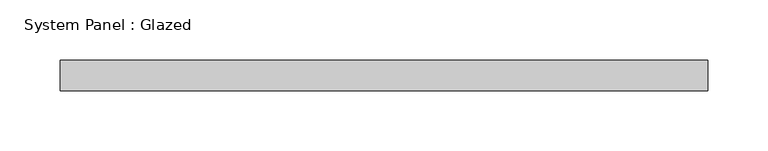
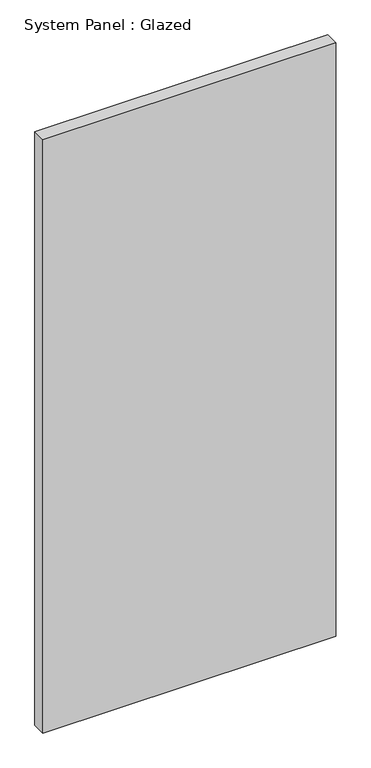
"""IFC4 building model written with IfcOpenShell, lengths in millimetres: plate geometry, System Panel : Glazed."""

import ifcopenshell
import ifcopenshell.guid

model = None  # the IFC model being written
_history = None  # IfcOwnerHistory: only IFC2X3 demands one
_inside = {}  # id of a spatial element -> (the spatial element, [elements in it])
_under = {}  # id of a project, library or spatial element -> (it, [spatial elements below it])
_declared = {}  # id of a project -> (the project, [libraries it declares])
_typed = {}  # id of a type object -> (the type object, [elements of that type])
_made_of = {}  # id of a material, layer set ... -> (it, [elements and type objects made of it])


def new_model(schema):
    """Start an empty IFC model of exactly this schema.

    Asked for "IFC4X3", IfcOpenShell would pick the latest addendum, in which some entities
    have other attributes; the version numbers below select the first issue.
    IFC2X3 requires an IfcOwnerHistory on every rooted entity: one is made here for all.
    """
    global model, _history
    if schema == "IFC4X3":
        model = ifcopenshell.file(schema_version=(4, 3, 0, 0))
    else:
        model = ifcopenshell.file(schema=schema)
    _inside.clear()
    _under.clear()
    _declared.clear()
    _typed.clear()
    _made_of.clear()
    _history = None
    if model.schema == "IFC2X3":
        org = make("IfcOrganization", Name="unknown")
        user = make(
            "IfcPersonAndOrganization",
            ThePerson=make("IfcPerson", FamilyName="unknown"),
            TheOrganization=org,
        )
        app = make(
            "IfcApplication",
            ApplicationDeveloper=org,
            Version="unknown",
            ApplicationFullName="unknown",
            ApplicationIdentifier="unknown",
        )
        _history = make(
            "IfcOwnerHistory",
            OwningUser=user,
            OwningApplication=app,
            ChangeAction="ADDED",
            CreationDate=0,
        )
    return model


def make(cls, **values):
    """One entity of the class cls with the attributes given. An attribute that is None is left unset."""
    return model.create_entity(
        cls, **{name: value for name, value in values.items() if value is not None}
    )


def rooted(cls, **values):
    """An entity with a GlobalId (a new one), such as an element, a storey or a relation."""
    return make(cls, GlobalId=ifcopenshell.guid.new(), OwnerHistory=_history, **values)


def si_unit(unit_type, name, prefix=None):
    """IfcSIUnit, for example si_unit("LENGTHUNIT", "METRE", prefix="MILLI")."""
    return make("IfcSIUnit", UnitType=unit_type, Prefix=prefix, Name=name)


def assignment(units):
    """IfcUnitAssignment: the units of a project."""
    return None if units is None else make("IfcUnitAssignment", Units=units)


def point(xyz):
    """IfcCartesianPoint."""
    return None if xyz is None else make("IfcCartesianPoint", Coordinates=xyz)


def direction(xyz):
    """IfcDirection."""
    return None if xyz is None else make("IfcDirection", DirectionRatios=xyz)


def frame(location, z_axis=None, x_axis=None):
    """IfcAxis2Placement3D, a coordinate frame: its origin and axes. An axis left out is left unset."""
    return make(
        "IfcAxis2Placement3D",
        Location=point(location),
        Axis=direction(z_axis),
        RefDirection=direction(x_axis),
    )


def origin():
    """The frame at (0, 0, 0) with its axes left unset."""
    return frame((0.0, 0.0, 0.0))


def origin_with_axes():
    """The frame at (0, 0, 0) with the z axis (0, 0, 1) and the x axis (1, 0, 0) written out."""
    return frame((0.0, 0.0, 0.0), z_axis=(0.0, 0.0, 1.0), x_axis=(1.0, 0.0, 0.0))


def place(relative_to, where):
    """IfcLocalPlacement: puts the frame where relative to a parent placement (None: the world)."""
    return make(
        "IfcLocalPlacement", PlacementRelTo=relative_to, RelativePlacement=where
    )


def context(
    kind, dimensions, precision=None, world=None, true_north=None, identifier=None
):
    """IfcGeometricRepresentationContext, for example the 3D "Model" context."""
    return make(
        "IfcGeometricRepresentationContext",
        ContextIdentifier=identifier,
        ContextType=kind,
        CoordinateSpaceDimension=dimensions,
        Precision=precision,
        WorldCoordinateSystem=world,
        TrueNorth=true_north,
    )


def project(units=None, contexts=None):
    """IfcProject with its units and contexts."""
    return rooted(
        "IfcProject",
        Name="project",
        RepresentationContexts=contexts,
        UnitsInContext=assignment(units),
    )


def spatial(cls, under=None, at=None, **own):
    """A site, building, storey or space (cls), placed at a placement, below another one or the project."""
    s = rooted(cls, ObjectPlacement=at, **own)
    if under is not None:
        _under.setdefault(under.id(), (under, []))[1].append(s)
    return s


def polyline(points):
    """IfcPolyline through the points."""
    return make("IfcPolyline", Points=[point(p) for p in points])


def outline(outer, holes=None, kind="AREA"):
    """IfcArbitraryClosedProfileDef: a profile drawn as a closed curve; with holes, ...WithVoids."""
    if holes is None:
        return make("IfcArbitraryClosedProfileDef", ProfileType=kind, OuterCurve=outer)
    return make(
        "IfcArbitraryProfileDefWithVoids",
        ProfileType=kind,
        OuterCurve=outer,
        InnerCurves=holes,
    )


def extrude(swept, where, along, depth):
    """IfcExtrudedAreaSolid: the profile swept, set in the frame where, extruded along a direction by depth."""
    return make(
        "IfcExtrudedAreaSolid",
        SweptArea=swept,
        Position=where,
        ExtrudedDirection=direction(along),
        Depth=depth,
    )


def shape(context_of_items, identifier, shape_type, items):
    """IfcShapeRepresentation: the items that make up one representation, for example the "Body"."""
    return make(
        "IfcShapeRepresentation",
        ContextOfItems=context_of_items,
        RepresentationIdentifier=identifier,
        RepresentationType=shape_type,
        Items=items,
    )


def source(mapping_origin, context_of_items, identifier, shape_type, items):
    """IfcRepresentationMap: a shape defined once, which mapped items show again and again."""
    return make(
        "IfcRepresentationMap",
        MappingOrigin=mapping_origin,
        MappedRepresentation=shape(context_of_items, identifier, shape_type, items),
    )


def transform(
    local_origin,
    x_axis=None,
    y_axis=None,
    z_axis=None,
    scale=None,
    scale2=None,
    scale3=None,
    uniform=True,
):
    """IfcCartesianTransformationOperator3D, or its non-uniform kind. x_axis, y_axis, z_axis: its Axis1, 2, 3."""
    if uniform:
        return make(
            "IfcCartesianTransformationOperator3D",
            Axis1=direction(x_axis),
            Axis2=direction(y_axis),
            LocalOrigin=point(local_origin),
            Scale=scale,
            Axis3=direction(z_axis),
        )
    return make(
        "IfcCartesianTransformationOperator3DnonUniform",
        Axis1=direction(x_axis),
        Axis2=direction(y_axis),
        LocalOrigin=point(local_origin),
        Scale=scale,
        Axis3=direction(z_axis),
        Scale2=scale2,
        Scale3=scale3,
    )


def mapped(mapping_source, mapping_target):
    """IfcMappedItem: shows the shape of a source again, moved by a transform."""
    return make(
        "IfcMappedItem", MappingSource=mapping_source, MappingTarget=mapping_target
    )


def made_of(thing, what):
    """Note that an element or type object is made of a material, layer set ...; save() writes the relation."""
    if what is not None:
        _made_of.setdefault(what.id(), (what, []))[1].append(thing)
    return thing


def element(
    cls,
    number,
    at=None,
    inside=None,
    cuts=None,
    type_object=None,
    material=None,
    context=None,
    identifier="Body",
    shape_type=None,
    held_by="IfcProductDefinitionShape",
    body=None,
    shapes=None,
    **own,
):
    """One element of the class cls, such as IfcWall. Its Tag is "e" and its number.

    at: its placement. inside: the storey or other place that contains it. cuts: it is an
    opening in that element (IfcRelVoidsElement). A single representation is given by context,
    identifier, shape_type and body (its items); several are given by shapes. held_by: the class
    of the entity that holds the representations. save() writes the other relations.
    """
    e = rooted(cls, Tag="e%d" % number, ObjectPlacement=at, **own)
    if body is not None:
        shapes = [shape(context, identifier, shape_type, body)]
    if shapes is not None:
        e.Representation = make(held_by, Representations=shapes)
    if inside is not None:
        _inside.setdefault(inside.id(), (inside, []))[1].append(e)
    if cuts is not None:
        rooted(
            "IfcRelVoidsElement", RelatingBuildingElement=cuts, RelatedOpeningElement=e
        )
    if type_object is not None:
        _typed.setdefault(type_object.id(), (type_object, []))[1].append(e)
    return made_of(e, material)


def aggregate(whole, parts):
    """IfcRelAggregates: a whole, such as a stair, and the parts it consists of."""
    return rooted("IfcRelAggregates", RelatingObject=whole, RelatedObjects=parts)


def save(model, path):
    """Write the relations noted so far, then the file.

    IfcRelAggregates (storeys below a building ...), IfcRelContainedInSpatialStructure (elements
    in a storey), IfcRelDefinesByType, IfcRelAssociatesMaterial and IfcRelDeclares: one each for
    every whole, place, type object, material and project.
    """
    for whole, parts in _under.values():
        aggregate(whole, parts)
    for where, things in _inside.values():
        rooted(
            "IfcRelContainedInSpatialStructure",
            RelatedElements=things,
            RelatingStructure=where,
        )
    for kind, things in _typed.values():
        rooted("IfcRelDefinesByType", RelatedObjects=things, RelatingType=kind)
    for what, things in _made_of.values():
        rooted("IfcRelAssociatesMaterial", RelatedObjects=things, RelatingMaterial=what)
    for by, libraries in _declared.values():
        rooted("IfcRelDeclares", RelatingContext=by, RelatedDefinitions=libraries)
    model.write(path)


def system_panel_glazed_85a31dd6(model_context):
    return source(origin(), model_context, "Body", "SweptSolid", [
        extrude(outline(polyline([(269.875, -44.45), (-269.875, -44.45), (-269.875, -19.05), (269.875, -19.05), (269.875, -44.45)])), origin_with_axes(), (0.0, 0.0, 1.0), 1155.7),
    ])


if __name__ == "__main__":
    model = new_model("IFC4")
    model_context = context("Model", 3, world=origin())
    ifc_project = project(units=[si_unit("LENGTHUNIT", "METRE", prefix="MILLI")], contexts=[model_context])
    site = spatial("IfcSite", under=ifc_project)
    building = spatial("IfcBuilding", under=site)
    placement = place(None, origin())
    system_panel_glazed_shape = system_panel_glazed_85a31dd6(model_context)
    element("IfcPlate", 1, ObjectType="System Panel : Glazed", at=placement, inside=building, context=model_context, shape_type="MappedRepresentation", body=[
        mapped(system_panel_glazed_shape, transform((0.0, 0.0, 0.0), x_axis=(1.0, 0.0, 0.0), y_axis=(0.0, 1.0, 0.0), z_axis=(0.0, 0.0, 1.0))),
    ])
    save(model, "model.ifc")
